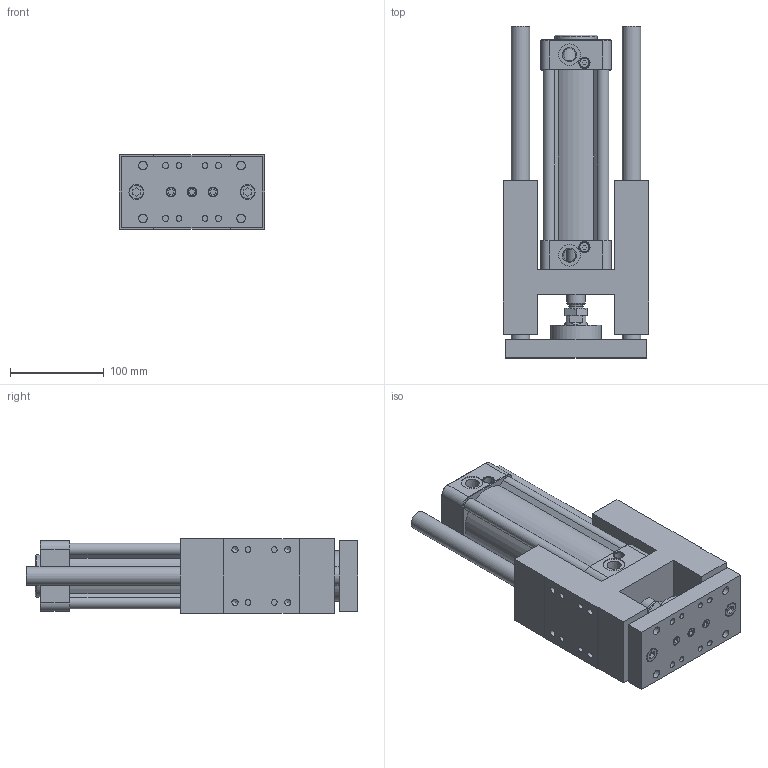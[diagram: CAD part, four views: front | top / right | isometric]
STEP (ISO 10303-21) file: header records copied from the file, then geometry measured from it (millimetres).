
FILE_DESCRIPTION((''),'2;1');
FILE_NAME('I:\3D電子目錄\氣缸\GHB(U)\GHB(U)\GHB(U)63\GHB(U)63x125.stp','2007-10-22T09:01:29',('Administrator'),(''),'Autodesk Inventor 11','Autodesk Inventor 11','');
FILE_SCHEMA(('AUTOMOTIVE_DESIGN { 1 0 10303 214 1 1 1 1 }'));
Length unit declared in the file: millimetre
Products named in the file (1): GHB(U)63
Bounding box: 156 x 355 x 80 mm (x, y, z)
Volume: 1925087.1 mm3; surface area: 363946 mm2
Topology: 1 solids, 13 shells, 789 faces, 1754 edges, 1088 vertices
Faces by surface type: plane 303, bspline 237, cylinder 159, cone 88, torus 2
Full cylindrical faces by diameter (mm): 2.5 x2, 6 x4, 6.647 x4, 6.7 x2, 6.75 x4, 7.25 x4, 7.4 x4, 7.5 x2, 8.5 x9, 9 x2, 9.8 x4, 10 x5, 11.5 x1, 11.9 x1, 12 x3, 13 x4, 14 x8, 14.5 x2, 16 x3, 20 x4, 23 x3, 25 x1, 26 x2, 45 x1, 54 x1, 63 x1
Entity records: 22867 total; most frequent: CARTESIAN_POINT 7086, DIRECTION 3132, ORIENTED_EDGE 3076, EDGE_CURVE 1538, AXIS2_PLACEMENT_3D 1207, EDGE_LOOP 1075, VERTEX_POINT 1047, FACE_OUTER_BOUND 789
